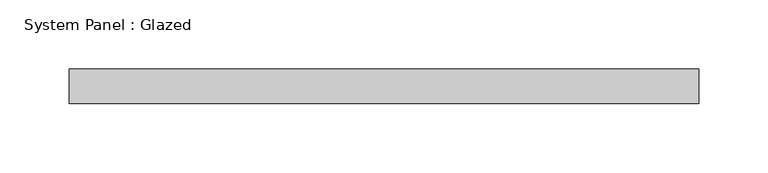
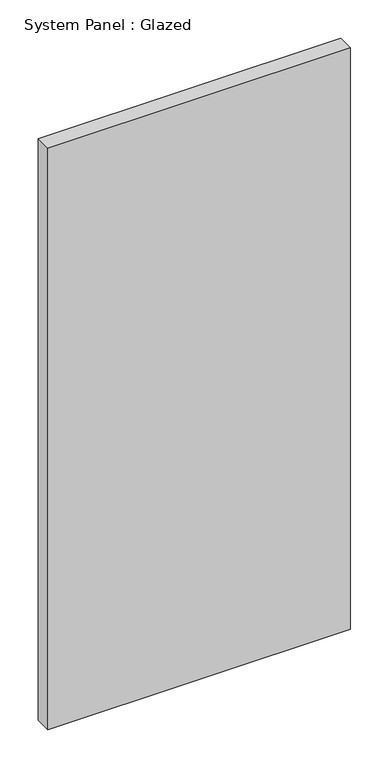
"""IFC4 building model written with IfcOpenShell, lengths in millimetres: plate geometry, System Panel : Glazed."""

from ifc_helpers import new_model, si_unit, origin, origin_with_axes, place, context, project, spatial, polyline, outline, extrude, source, transform, mapped, element, save


def system_panel_glazed_a2e83630(model_context):
    return source(origin(), model_context, "Body", "SweptSolid", [
        extrude(outline(polyline([(227.5, 24.5), (-227.5, 24.5), (-227.5, 49.5), (227.5, 49.5), (227.5, 24.5)])), origin_with_axes(), (0.0, 0.0, 1.0), 925.0),
    ])


if __name__ == "__main__":
    model = new_model("IFC4")
    model_context = context("Model", 3, world=origin())
    ifc_project = project(units=[si_unit("LENGTHUNIT", "METRE", prefix="MILLI")], contexts=[model_context])
    site = spatial("IfcSite", under=ifc_project)
    building = spatial("IfcBuilding", under=site)
    placement = place(None, origin())
    system_panel_glazed_shape = system_panel_glazed_a2e83630(model_context)
    element("IfcPlate", 1, ObjectType="System Panel : Glazed", at=placement, inside=building, context=model_context, shape_type="MappedRepresentation", body=[
        mapped(system_panel_glazed_shape, transform((0.0, 0.0, 0.0), x_axis=(1.0, 0.0, 0.0), y_axis=(0.0, 1.0, 0.0), z_axis=(0.0, 0.0, 1.0))),
    ])
    save(model, "model.ifc")
